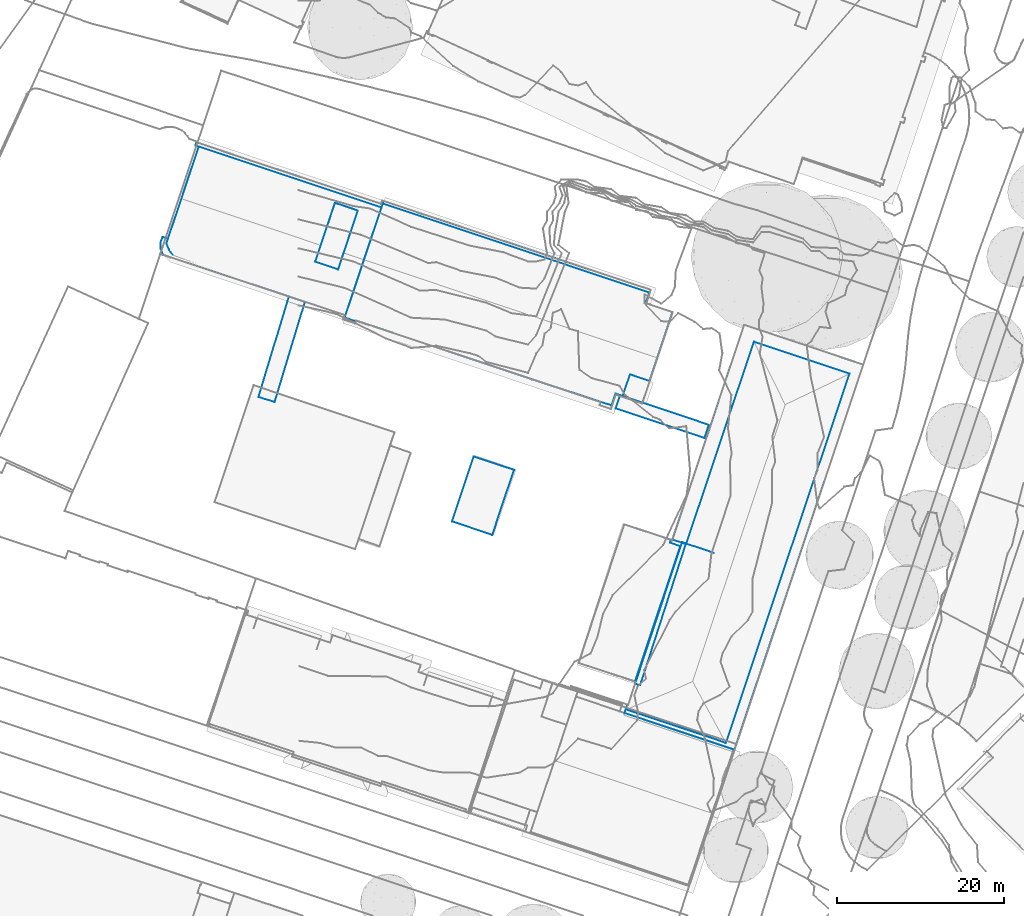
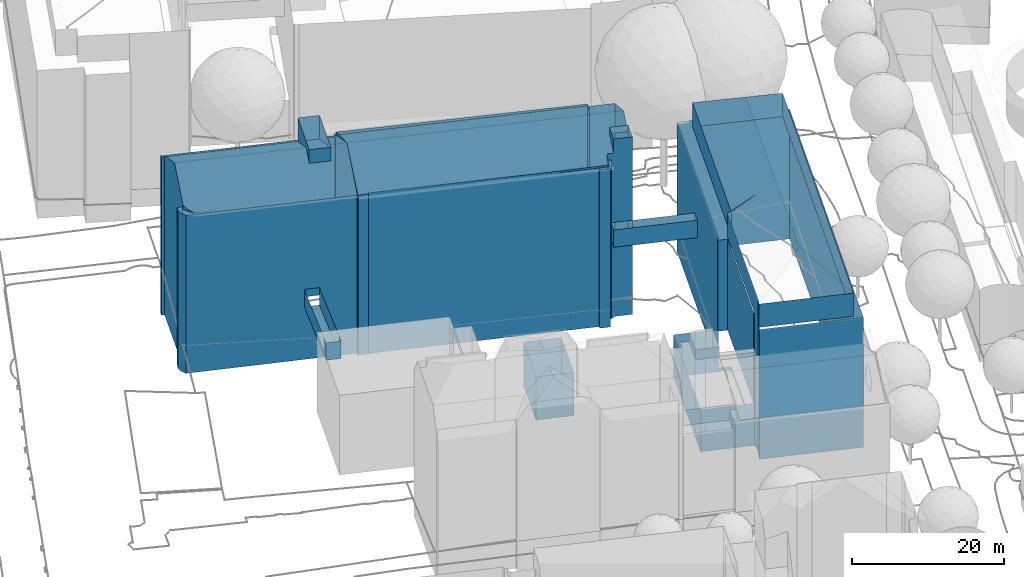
# Not in any storey, part 26 of 477: 4 walls.
"""IFC4 building model written with IfcOpenShell, lengths in metres."""

from ifc_helpers import new_model, si_unit, frame, origin_with_axes, place, context, subcontext, project, spatial, polygons, element, save


model = new_model("IFC4")

# Units and contexts
model_context = context("Model", 3, precision=1e-05, world=origin_with_axes())
body_context = subcontext(model_context, "Body", "Model", "MODEL_VIEW")
ifc_project = project(units=[si_unit("AREAUNIT", "SQUARE_METRE"), si_unit("LENGTHUNIT", "METRE")], contexts=[model_context])

# Sites, building
site_1_placement = place(None, origin_with_axes())
site_1 = spatial("IfcSite", under=ifc_project, at=site_1_placement, Name="Topoexport Site")
site_2_placement = place(site_1_placement, origin_with_axes())
site_2 = spatial("IfcSite", under=site_1, at=site_2_placement, Name="TPX_BUILDINGS")
building_1_placement = place(site_2_placement, frame((-17.4142679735, 188.431416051, 525.0686), z_axis=(0.0, 0.0, 1.0), x_axis=(1.0, 0.0, 0.0)))
building_1 = spatial("IfcBuilding", under=site_2, at=building_1_placement, Name="Building 144", CompositionType="ELEMENT")

# Wall
wall_1_placement = place(None, frame((-17.4142679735, 188.431416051, 525.0686), z_axis=(0.0, 0.0, 1.0), x_axis=(1.0, 0.0, 0.0)))
element("IfcWall", 1, at=wall_1_placement, inside=building_1, Name="Wall 0", context=body_context, shape_type="Tessellation", body=[
    polygons([(0.7120000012, -0.0760999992, 25.9806), (1.0260000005, -0.8104999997, 25.6706), (1.0260000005, -0.8104999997, 25.3406), (0.7120000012, -0.0760999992, 25.3406), (0.0, 0.0, 0.0), (0.2430000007, 0.6953999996, 25.3406), (0.0, 0.0, 25.3406), (0.0370000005, -0.7274999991, 0.0), (0.0370000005, -0.7274999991, 25.3406), (22.0100000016, -9.2381999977, 18.9742), (21.9780000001, -9.2274999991, 25.2986), (22.0100000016, -9.2381999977, 25.2986), (22.0100000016, -9.2381999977, 0.0), (22.0100000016, -9.2381999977, 12.6488), (21.9200000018, -9.2088999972, 15.8115), (21.9200000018, -9.2088999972, 25.2986), (21.9200000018, -9.2088999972, 6.3244), (21.9197999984, -9.2088999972, 0.0), (13.6959999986, -19.1014999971, 8.4302), (11.754999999, -18.5126999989, 11.2299), (13.6959999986, -19.1014999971, 11.2299), (17.3339999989, -7.0936999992, 8.4302), (17.3339999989, -7.0936999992, 11.2299), (11.754999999, -18.5126999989, 8.4302), (15.4070000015, -6.4560000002, 11.2299), (18.561999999, -2.2899999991, 27.8094), (19.2309999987, -0.2889999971, 28.9103), (18.561999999, -2.2899999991, 29.9971), (20.9279999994, 4.7832000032, 29.9972), (20.9279999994, 4.7832000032, 26.1975), (20.8229999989, 4.4698000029, 26.3665), (21.311999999, -3.2098999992, 27.8074), (21.311999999, -3.2098999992, 29.9971), (21.9809999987, -1.2088999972, 28.9083), (23.6779999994, 3.8633000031, 29.9972), (23.6779999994, 3.8633000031, 26.1965), (22.0329999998, 4.4131000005, 26.1975), (4.5980000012, 11.5391000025, 0.0), (4.1920000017, 11.6749000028, 25.3406), (4.5980000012, 11.5391000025, 25.3406), (26.7699999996, 4.9922000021, 25.2986), (26.6009999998, 5.0479000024, 11.068), (26.6009999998, 5.0479000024, 0.0), (26.7701000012, 4.9923, 18.9742), (26.7701000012, 4.9923, 12.6488), (26.7699999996, 4.9922000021, 0.0), (26.7699999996, 4.9922000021, 6.3244), (4.4739999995, 12.0997000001, 0.0), (4.3370000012, 12.1456000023, 25.3406), (4.3370000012, 12.1456000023, 0.0), (4.4739999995, 12.0996000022, 25.3406), (4.1920000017, 11.6749000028, 0.0), (4.438000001, 11.9902999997, 0.0), (26.5080000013, 4.2090000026, 25.5726), (4.5980000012, 11.5391000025, 25.5765), (1.2349999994, -1.1053999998, 25.5606), (1.5100000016, -1.4959999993, 25.3766), (1.2349999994, -1.1053999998, 25.3406), (0.2430000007, 0.6953999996, 0.0), (0.6290000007, 0.5665000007, 25.3406), (0.8969999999, 0.4776000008, 25.3406), (0.6290000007, 0.5665000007, 0.0), (0.8969999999, 0.4776000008, 0.0), (0.125, -0.9461999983, 0.0), (0.3359999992, -1.4696999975, 25.3406), (0.3359999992, -1.4696999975, 0.0), (0.125, -0.9461999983, 25.3406), (2.512000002, 5.3057000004, 28.9223), (0.8969999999, 0.4776000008, 26.2815), (2.512000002, 5.3057000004, 0.0), (22.0029999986, -8.9588999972, 25.2986), (22.1000000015, -8.6708999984, 0.0), (22.0029999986, -8.9608999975, 0.0), (22.1000000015, -8.6708999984, 25.3396), (26.4719999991, 4.6592000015, 25.3076), (26.5040000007, 4.755900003, 25.2986), (26.6009999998, 5.0479000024, 25.2986), (26.4719999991, 4.6592000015, 0.0), (4.438000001, 11.9902999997, 25.3406), (21.7230000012, 6.2393000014, 0.0), (21.7230000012, 6.2393000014, 25.3076), (26.6739999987, 4.7041000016, 25.2986), (24.4219999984, -2.0253999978, 28.9062), (26.5080000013, 4.2090000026, 25.3406), (24.4219999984, -2.0252999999, 0.0), (26.5080000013, 4.2090000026, 0.0), (26.6739999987, 4.7041000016, 0.0), (22.2760000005, -8.4432999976, 25.3766), (22.0929999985, -8.9891999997, 25.2986), (22.2760000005, -8.4432999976, 0.0), (22.0929999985, -8.9891999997, 0.0), (12.7789999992, -5.5868999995, 25.3346), (12.7789999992, -5.5868999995, 0.0), (15.4070000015, -6.4560000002, 8.4302), (1.3909999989, -1.8182999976, 0.0), (1.2199999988, -1.7616999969, 25.3406), (1.3909999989, -1.8182999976, 25.3626), (1.9299999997, -1.9969999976, 25.3616), (1.2199999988, -1.7616999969, 0.0)], [[[3, 2, 1]], [[1, 4, 3]], [[7, 6, 5]], [[9, 7, 8]], [[12, 11, 10]], [[14, 11, 13]], [[16, 15, 11]], [[17, 11, 15]], [[17, 18, 11]], [[11, 18, 13]], [[21, 20, 19]], [[23, 21, 22]], [[20, 25, 24]], [[28, 27, 26]], [[27, 28, 29]], [[31, 29, 30]], [[29, 31, 27]], [[33, 26, 32]], [[36, 35, 34]], [[34, 33, 32]], [[33, 34, 35]], [[30, 29, 37]], [[37, 35, 36]], [[35, 37, 29]], [[40, 39, 38]], [[43, 42, 41]], [[45, 43, 44]], [[47, 46, 43]], [[50, 49, 48]], [[51, 48, 49]], [[39, 50, 52]], [[50, 39, 49]], [[53, 48, 51]], [[55, 54, 40]], [[58, 57, 56]], [[2, 3, 58]], [[2, 58, 56]], [[6, 60, 59]], [[63, 62, 61]], [[66, 65, 64]], [[9, 8, 67]], [[69, 68, 61]], [[69, 4, 1]], [[4, 69, 61]], [[68, 63, 61]], [[40, 63, 68]], [[40, 70, 63]], [[70, 40, 38]], [[40, 68, 55]], [[16, 71, 15]], [[15, 72, 17]], [[18, 17, 73]], [[74, 72, 15]], [[15, 71, 74]], [[73, 17, 72]], [[76, 42, 75]], [[42, 76, 77]], [[78, 42, 43]], [[42, 78, 75]], [[80, 53, 79]], [[81, 75, 80]], [[78, 80, 75]], [[80, 79, 81]], [[44, 41, 82]], [[84, 54, 83]], [[82, 84, 44]], [[45, 44, 83]], [[86, 47, 85]], [[87, 46, 47]], [[86, 87, 47]], [[85, 47, 45]], [[83, 44, 84]], [[83, 88, 10]], [[89, 12, 10]], [[89, 10, 88]], [[83, 10, 14]], [[90, 85, 14]], [[91, 14, 13]], [[14, 91, 90]], [[85, 83, 14]], [[83, 85, 45]], [[23, 92, 25]], [[92, 23, 74]], [[74, 23, 72]], [[72, 22, 93]], [[22, 72, 23]], [[94, 93, 22]], [[95, 93, 94]], [[94, 25, 95]], [[98, 97, 96]], [[65, 66, 96]], [[98, 96, 95]], [[98, 25, 92]], [[98, 95, 25]], [[95, 96, 99]], [[6, 59, 5]], [[7, 5, 8]], [[14, 10, 11]], [[20, 24, 19]], [[21, 19, 22]], [[25, 94, 24]], [[28, 26, 33]], [[39, 52, 38]], [[77, 41, 42]], [[43, 41, 44]], [[45, 47, 43]], [[51, 79, 53]], [[54, 84, 40]], [[60, 62, 59]], [[62, 60, 61]], [[65, 67, 64]], [[8, 64, 67]], [[66, 99, 96]]]),
])

# Building
building_2_placement = place(site_2_placement, frame((4.678732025, 179.4422160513, 524.9256), z_axis=(0.0, 0.0, 1.0), x_axis=(1.0, 0.0, 0.0)))
building_2 = spatial("IfcBuilding", under=site_2, at=building_2_placement, Name="Building 147", CompositionType="ELEMENT")

# Wall
wall_2_placement = place(None, frame((4.678732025, 179.4422160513, 524.9256), z_axis=(0.0, 0.0, 1.0), x_axis=(1.0, 0.0, 0.0)))
element("IfcWall", 2, at=wall_2_placement, inside=building_2, Name="Wall 0", context=body_context, shape_type="Tessellation", body=[
    polygons([(43.6950000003, -12.8622999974, 12.5228), (43.1650000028, -14.4452999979, 15.3225), (43.6950000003, -12.8622999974, 15.3225), (43.1650000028, -14.4452999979, 12.5228), (32.5140000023, -10.8808999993, 15.3225), (36.6060000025, -7.6074000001, 0.238), (35.7380000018, -10.1992000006, 15.3225), (36.6060000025, -7.6074000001, 28.7292), (35.7380000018, -10.1992000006, 28.7292), (35.7380000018, -10.1992000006, 0.238), (35.7380000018, -10.1992000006, 12.5228), (39.3370000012, 0.6474000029, 26.2385), (36.1120000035, 1.7266000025, 26.2385), (36.1120000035, 1.7266000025, 25.3996), (36.1120000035, 1.7266000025, 1.0749), (36.1120000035, 1.7266000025, 0.0), (39.3370000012, 0.6474000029, 0.0), (36.7360000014, 3.3368999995, 1.0749), (36.2010000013, 1.7187000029, 25.3996), (36.7360000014, 3.3368999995, 25.3996), (36.6740000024, 1.5516999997, 1.0749), (36.6740000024, 1.5516999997, 25.3996), (36.2010000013, 1.7187000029, 1.0749), (4.6790000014, 13.9805000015, 13.2498), (12.143000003, 11.5, 25.4156), (4.6790000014, 13.9805000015, 19.3382), (4.6790000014, 13.9805000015, 1.0749), (11.4680000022, 11.7236000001, 1.0749), (4.6790000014, 13.9805000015, 7.1623), (23.1359999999, 7.8456999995, 25.3996), (36.5380000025, 3.0, 25.7095), (36.5380000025, 3.0, 25.3996), (36.5380000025, 3.0, 0.0), (36.5380000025, 3.0, 1.0749), (4.5810000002, 13.6933000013, 25.4416), (4.5810000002, 13.6933000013, 25.9056), (4.5810000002, 13.6933000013, 0.0), (4.5810000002, 13.6933000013, 1.0749), (34.2250000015, -6.811499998, 28.7292), (34.2250000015, -6.811499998, 27.7033), (36.5780000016, -7.5986000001, 27.7033), (36.5780000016, -7.5986000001, 0.238), (36.5780000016, -7.5986000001, 0.0), (34.2250000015, -6.811499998, 0.0), (1.3570000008, -0.3407999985, 19.3192), (1.3570000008, -0.3407999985, 12.8788), (1.3440000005, -0.3779000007, 25.7406), (1.3570000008, -0.3407999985, 6.4094), (1.3440000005, -0.3779000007, 0.0), (1.3570000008, -0.3407999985, 0.0), (1.325000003, -0.4375, 0.0), (1.325000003, -0.4375, 25.7096), (0.0, 0.0, 25.7096), (0.0, 0.0, 0.0), (30.6080000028, -10.5058999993, 25.4025), (30.6080000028, -10.5058999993, -0.007), (30.7270000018, -10.1532999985, -0.007), (31.9560000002, -10.9550999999, 25.4005), (31.9560000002, -10.9550999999, -0.007), (32.5310000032, -9.2372999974, -0.007), (32.5310000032, -9.2372999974, 25.4005), (33.0109999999, -9.3974999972, 15.3225), (33.0109999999, -9.3974999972, 12.5228), (33.0109999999, -9.3974999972, -0.007), (33.0109999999, -9.3974999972, 25.3995), (32.0090000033, -10.5331999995, 25.3995), (22.4830000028, -7.3983999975, 25.4126), (32.0090000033, -10.5331999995, 25.7095), (32.4850000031, -9.1112999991, 26.4644), (32.4850000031, -9.1112999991, 25.3995), (32.5140000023, -10.8808999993, 12.5228), (33.3580000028, -9.4032999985, 28.7292), (33.3580000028, -9.4032999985, 26.4644), (33.3580000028, -9.4032999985, 0.0), (34.2250000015, -6.811499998, 0.238), (33.3580000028, -9.4032999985, 0.238), (33.0440000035, -9.2987999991, 0.0), (33.0440000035, -9.2987999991, 12.5228), (33.0440000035, -9.2987999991, 15.3225), (33.0440000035, -9.2987999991, 25.3995), (37.512000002, -4.8085999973, 0.0), (37.512000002, -4.8085999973, 29.0332), (35.3289999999, 3.7930000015, 1.0749), (21.8880000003, 8.2607000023, 1.0749), (35.3289999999, 3.7930000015, 25.3996), (0.1830000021, 0.5459000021, 0.0), (2.3289999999, 6.9638999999, 0.0), (0.1830000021, 0.5459000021, 25.9695), (2.3289999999, 6.9638999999, 29.0492), (4.6790000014, 13.9805000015, 25.4256), (30.7270000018, -10.1532999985, 25.4015), (30.7270000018, -10.1532999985, 12.6978), (22.4830000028, -7.3983999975, 0.0), (2.1290000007, -0.5986000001, 25.7586), (1.3570000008, -0.3407999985, 25.7586), (22.4830000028, -7.3983999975, 25.7095)], [[[3, 2, 1]], [[2, 5, 4]], [[8, 7, 6]], [[7, 8, 9]], [[11, 10, 6]], [[7, 3, 11]], [[14, 13, 12]], [[14, 12, 15]], [[15, 17, 16]], [[20, 19, 18]], [[22, 14, 21]], [[19, 22, 23]], [[26, 25, 24]], [[29, 28, 27]], [[25, 30, 28]], [[32, 31, 13]], [[13, 14, 32]], [[34, 15, 33]], [[36, 31, 35]], [[38, 34, 37]], [[41, 40, 39]], [[41, 8, 6]], [[8, 41, 39]], [[41, 6, 42]], [[42, 44, 43]], [[47, 46, 45]], [[46, 47, 48]], [[47, 49, 48]], [[48, 49, 50]], [[49, 52, 51]], [[54, 52, 53]], [[54, 51, 52]], [[57, 56, 55]], [[59, 58, 56]], [[55, 56, 58]], [[61, 59, 60]], [[61, 58, 59]], [[63, 62, 61]], [[64, 63, 60]], [[65, 61, 62]], [[68, 67, 66]], [[70, 69, 66]], [[68, 66, 69]], [[5, 63, 71]], [[73, 72, 40]], [[39, 40, 72]], [[44, 75, 74]], [[76, 74, 75]], [[78, 63, 77]], [[80, 62, 79]], [[10, 11, 76]], [[11, 78, 76]], [[76, 77, 74]], [[77, 76, 78]], [[9, 72, 73]], [[7, 73, 79]], [[73, 7, 9]], [[80, 69, 70]], [[69, 80, 73]], [[80, 79, 73]], [[81, 42, 43]], [[12, 81, 17]], [[12, 82, 41]], [[41, 42, 12]], [[12, 42, 81]], [[84, 30, 83]], [[18, 83, 20]], [[83, 30, 85]], [[86, 54, 53]], [[24, 87, 53]], [[86, 53, 87]], [[38, 37, 87]], [[87, 29, 38]], [[24, 53, 88]], [[89, 35, 26]], [[35, 89, 36]], [[35, 90, 26]], [[38, 29, 27]], [[24, 88, 26]], [[24, 29, 87]], [[89, 26, 88]], [[92, 91, 67]], [[92, 93, 57]], [[46, 93, 92]], [[92, 67, 46]], [[94, 45, 67]], [[95, 45, 94]], [[45, 46, 67]], [[50, 93, 48]], [[46, 48, 93]], [[94, 67, 96]], [[2, 4, 1]], [[5, 71, 4]], [[7, 11, 6]], [[3, 1, 11]], [[12, 17, 15]], [[19, 23, 18]], [[14, 15, 21]], [[22, 21, 23]], [[28, 30, 84]], [[90, 25, 26]], [[25, 28, 24]], [[29, 24, 28]], [[15, 16, 33]], [[31, 32, 35]], [[34, 33, 37]], [[75, 44, 42]], [[45, 95, 47]], [[52, 49, 47]], [[55, 92, 57]], [[92, 55, 91]], [[63, 61, 60]], [[96, 67, 68]], [[62, 63, 5]], [[63, 64, 77]], [[65, 62, 80]], [[83, 85, 20]]]),
])

# Building
building_3_placement = place(site_2_placement, frame((32.7697320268, 138.0096160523, 524.7246), z_axis=(0.0, 0.0, 1.0), x_axis=(1.0, 0.0, 0.0)))
building_3 = spatial("IfcBuilding", under=site_2, at=building_3_placement, Name="Building 149", CompositionType="ELEMENT")

# Wall
wall_3_placement = place(None, frame((32.7697320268, 138.0096160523, 524.7246), z_axis=(0.0, 0.0, 1.0), x_axis=(1.0, 0.0, 0.0)))
element("IfcWall", 3, at=wall_3_placement, inside=building_3, Name="Wall 0", context=body_context, shape_type="Tessellation", body=[
    polygons([(19.8390000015, 40.557599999, 0.5129), (34.1330000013, 35.7822000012, 21.3649), (19.8390000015, 40.557599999, 21.3649), (10.9439999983, 14.4228000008, 6.7613), (11.0590000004, 14.7666000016, 21.3649), (10.9439999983, 14.4228000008, 21.3649), (12.1739999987, 14.0106999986, 6.7613), (12.1739999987, 14.0106999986, 21.3649), (6.7419999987, -2.2226999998, 6.7613), (6.7419999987, -2.2226999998, 21.3649), (21.006000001, 38.5467999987, 21.3649), (32.4679999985, 34.7118999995, 25.1146), (21.006000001, 38.5467999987, 25.2756), (17.6440000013, -9.5909000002, 21.3649), (5.6229999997, -5.5694000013, 21.3649), (17.6440000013, -9.5909000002, 25.1145), (0.0, 0.0, 0.0), (5.4600000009, 16.6367000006, 6.7613), (0.0, 0.0, 6.7613), (7.3539999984, -2.6719000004, 0.0), (6.7589999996, -2.4785000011, 0.5129), (7.3539999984, -2.6719000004, 0.5129), (12.8390000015, 14.2743999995, 0.0), (12.8390000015, 14.2743999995, 0.5129), (11.2410000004, 14.7910000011, 0.0), (11.2410000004, 14.7910000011, 0.5129), (11.2149999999, 14.7138000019, 0.0), (11.2149999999, 14.7138000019, 21.3649), (11.0590000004, 14.7666000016, 6.7613), (5.4600000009, 16.6367000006, 0.0), (6.8339999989, -2.2529999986, 0.0), (6.8339999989, -2.2529999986, 21.3649), (5.9189999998, -5.0273999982, 25.1855), (5.8150000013, -4.9932000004, 25.1145), (5.8159999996, -4.9932000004, 21.3649), (5.9189999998, -5.0273999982, 0.5129), (5.8159999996, -4.9932000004, 0.5129), (18.5610000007, -10.371100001, 0.5129), (18.6719999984, -10.4081999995, 21.3649), (18.6719999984, -10.4081999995, 0.5129), (5.4809999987, -5.9932000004, 0.5129), (5.4809999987, -5.9932000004, 21.3649), (34.1330000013, 35.7822000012, 0.5129), (18.8999999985, -9.7276000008, 21.3649), (18.8999999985, -9.7276000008, 0.5129), (12.8979999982, 14.317400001, 25.2755), (12.3900000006, 14.4882999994, 21.3649), (12.8979999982, 14.317400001, 21.3649), (12.3900000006, 14.4882999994, 25.1496), (16.256000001, 13.1953000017, 27.7763), (12.8979999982, 14.317400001, 25.4945), (5.6220000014, -5.5694000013, 25.1145), (32.4679999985, 34.7118999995, 21.3649), (17.7280000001, -9.3409000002, 25.1145), (17.7280000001, -9.3409000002, 21.3649), (18.3990000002, 30.7558000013, 25.2756), (18.3990000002, 30.7558000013, 21.3649), (6.7589999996, -2.4785000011, 0.0), (6.7600000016, -2.4765999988, 25.1775)], [[[3, 2, 1]], [[6, 5, 4]], [[8, 6, 7]], [[10, 8, 9]], [[13, 12, 11]], [[16, 15, 14]], [[19, 18, 17]], [[22, 21, 20]], [[24, 22, 23]], [[26, 24, 25]], [[27, 26, 25]], [[26, 27, 28]], [[26, 3, 1]], [[30, 18, 29]], [[29, 28, 27]], [[28, 29, 5]], [[29, 27, 30]], [[32, 9, 31]], [[9, 32, 10]], [[31, 9, 17]], [[19, 17, 9]], [[35, 34, 33]], [[37, 35, 36]], [[36, 35, 33]], [[40, 39, 38]], [[42, 41, 39]], [[2, 44, 43]], [[40, 45, 39]], [[48, 47, 46]], [[46, 47, 49]], [[46, 51, 50]], [[51, 46, 49]], [[15, 52, 34]], [[41, 42, 15]], [[37, 15, 35]], [[41, 15, 37]], [[35, 15, 34]], [[12, 54, 53]], [[14, 55, 16]], [[46, 56, 48]], [[11, 57, 13]], [[36, 33, 32]], [[32, 21, 36]], [[58, 21, 31]], [[32, 33, 59]], [[59, 49, 32]], [[31, 21, 32]], [[47, 32, 49]], [[2, 43, 1]], [[5, 29, 4]], [[6, 4, 7]], [[8, 7, 9]], [[12, 53, 11]], [[52, 15, 16]], [[18, 30, 17]], [[21, 58, 20]], [[22, 20, 23]], [[24, 23, 25]], [[28, 3, 26]], [[41, 38, 39]], [[44, 45, 43]], [[45, 44, 39]], [[54, 55, 53]], [[55, 54, 16]], [[56, 57, 48]], [[57, 56, 13]]]),
])

# Building
building_4_placement = place(site_2_placement, frame((17.559732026, 155.003716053, 524.8416), z_axis=(0.0, 0.0, 1.0), x_axis=(1.0, 0.0, 0.0)))
building_4 = spatial("IfcBuilding", under=site_2, at=building_4_placement, Name="Building 150", CompositionType="ELEMENT")

# Wall
wall_4_placement = place(None, frame((17.559732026, 155.003716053, 524.8416), z_axis=(0.0, 0.0, 1.0), x_axis=(1.0, 0.0, 0.0)))
element("IfcWall", 4, at=wall_4_placement, inside=building_4, Name="Wall 0", context=body_context, shape_type="Tessellation", body=[
    polygons([(2.5899999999, 7.7705000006, 0.0), (7.4270000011, 6.1679999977, 6.9053), (2.5899999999, 7.7705000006, 6.9053), (0.0, 0.0, 0.0), (0.0, 0.0, 6.9053), (4.8289999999, -1.629900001, 0.0), (4.8289999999, -1.629900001, 6.9053), (7.4270000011, 6.1679999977, 0.0)], [[[3, 2, 1]], [[5, 3, 4]], [[7, 5, 6]], [[2, 7, 8]], [[2, 8, 1]], [[3, 1, 4]], [[5, 4, 6]], [[7, 6, 8]]]),
])

save(model, "model.ifc")
